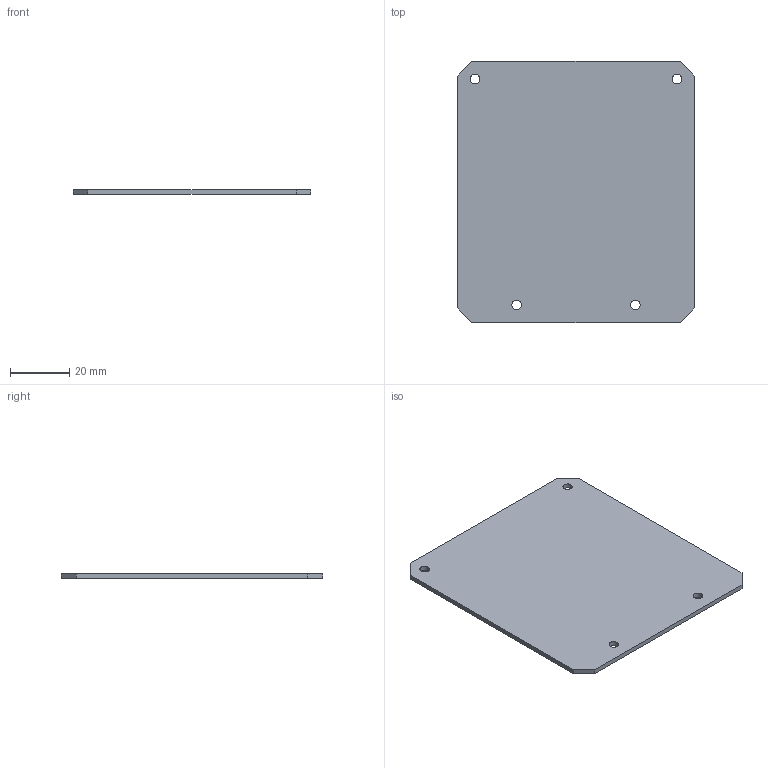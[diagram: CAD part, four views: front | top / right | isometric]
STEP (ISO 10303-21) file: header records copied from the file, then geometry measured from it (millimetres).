
FILE_DESCRIPTION (( 'STEP AP203' ), '1' );
FILE_NAME ('REF_pcb_80x88.step', '2026-09-30T11:36:41', ( '' ), ( '' ), 'SwSTEP 2.0', 'SolidWorks 2025', '' );
FILE_SCHEMA (( 'CONFIG_CONTROL_DESIGN' ));
Length unit declared in the file: millimetre
Products named in the file (1): REF_pcb_80x88
Bounding box: 80 x 88 x 1.6 mm (x, y, z)
Volume: 11132.5 mm3; surface area: 14498.9 mm2
Topology: 1 solids, 1 shells, 18 faces, 48 edges, 32 vertices
Faces by surface type: plane 10, cylinder 8
Entity records: 661 total; most frequent: DIRECTION 102, CARTESIAN_POINT 99, ORIENTED_EDGE 96, EDGE_CURVE 48, AXIS2_PLACEMENT_3D 35, VERTEX_POINT 32, LINE 32, VECTOR 32
